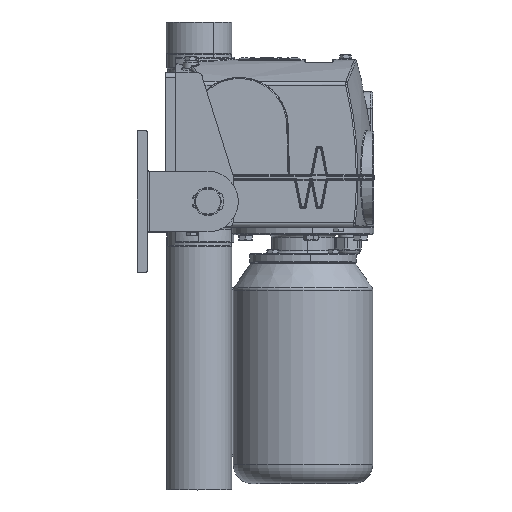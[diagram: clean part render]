
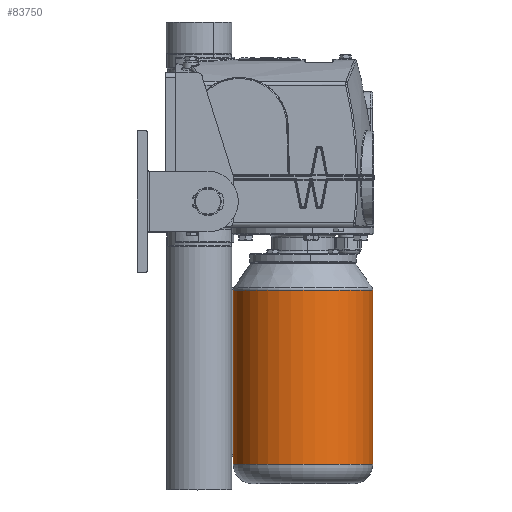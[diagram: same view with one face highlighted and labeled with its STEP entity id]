
A CAD part, top view. The second image highlights one B-rep face of the part: STEP entity #83750.
In plain terms, the highlighted cylindrical face has radius 69.05 mm (diameter 138.1 mm), a partial arc.
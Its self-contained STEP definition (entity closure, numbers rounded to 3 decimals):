
#1514 = VECTOR ( 'NONE', #9710, 1000. ) ;
#2140 = VERTEX_POINT ( 'NONE', #15267 ) ;
#3451 = CYLINDRICAL_SURFACE ( 'NONE', #49471, 69.05 ) ;
#3717 = DIRECTION ( 'NONE',  ( 0., -1., 0. ) ) ;
#6921 = EDGE_CURVE ( 'NONE', #2140, #42312, #26887, .T. ) ;
#8418 = FACE_OUTER_BOUND ( 'NONE', #30157, .T. ) ;
#8655 = ORIENTED_EDGE ( 'NONE', *, *, #6921, .T. ) ;
#9710 = DIRECTION ( 'NONE',  ( 0., -1., 0. ) ) ;
#12064 = AXIS2_PLACEMENT_3D ( 'NONE', #39522, #3717, #25640 ) ;
#12862 = DIRECTION ( 'NONE',  ( 0., 0., 1. ) ) ;
#15267 = CARTESIAN_POINT ( 'NONE',  ( 0., -26.569, 69.05 ) ) ;
#15587 = DIRECTION ( 'NONE',  ( 0., 0., -1. ) ) ;
#17576 = VERTEX_POINT ( 'NONE', #58157 ) ;
#21570 = CARTESIAN_POINT ( 'NONE',  ( 0., -199., 69.05 ) ) ;
#23196 = CARTESIAN_POINT ( 'NONE',  ( 0., 0., 0. ) ) ;
#25640 = DIRECTION ( 'NONE',  ( 0., 0., -1. ) ) ;
#26887 = CIRCLE ( 'NONE', #48412, 69.05 ) ;
#26966 = CARTESIAN_POINT ( 'NONE',  ( 0., -26.569, -69.05 ) ) ;
#27953 = ORIENTED_EDGE ( 'NONE', *, *, #40172, .T. ) ;
#28097 = VECTOR ( 'NONE', #67935, 1000. ) ;
#30157 = EDGE_LOOP ( 'NONE', ( #78078, #8655, #27953, #36398 ) ) ;
#36398 = ORIENTED_EDGE ( 'NONE', *, *, #46885, .F. ) ;
#39522 = CARTESIAN_POINT ( 'NONE',  ( 0., -199., 0. ) ) ;
#40172 = EDGE_CURVE ( 'NONE', #42312, #17576, #77832, .T. ) ;
#42312 = VERTEX_POINT ( 'NONE', #26966 ) ;
#46885 = EDGE_CURVE ( 'NONE', #58602, #17576, #66453, .T. ) ;
#48412 = AXIS2_PLACEMENT_3D ( 'NONE', #60404, #73848, #12862 ) ;
#49179 = DIRECTION ( 'NONE',  ( 0., -1., 0. ) ) ;
#49471 = AXIS2_PLACEMENT_3D ( 'NONE', #23196, #49179, #15587 ) ;
#53615 = CARTESIAN_POINT ( 'NONE',  ( 0., 0., 69.05 ) ) ;
#58157 = CARTESIAN_POINT ( 'NONE',  ( 0., -199., -69.05 ) ) ;
#58602 = VERTEX_POINT ( 'NONE', #21570 ) ;
#60404 = CARTESIAN_POINT ( 'NONE',  ( 0., -26.569, 0. ) ) ;
#64409 = CARTESIAN_POINT ( 'NONE',  ( 0., 0., -69.05 ) ) ;
#66453 = CIRCLE ( 'NONE', #12064, 69.05 ) ;
#67935 = DIRECTION ( 'NONE',  ( 0., -1., 0. ) ) ;
#73848 = DIRECTION ( 'NONE',  ( 0., -1., 0. ) ) ;
#74669 = LINE ( 'NONE', #53615, #28097 ) ;
#77832 = LINE ( 'NONE', #64409, #1514 ) ;
#78078 = ORIENTED_EDGE ( 'NONE', *, *, #84073, .F. ) ;
#83750 = ADVANCED_FACE ( 'NONE', ( #8418 ), #3451, .T. ) ;
#84073 = EDGE_CURVE ( 'NONE', #2140, #58602, #74669, .T. ) ;
